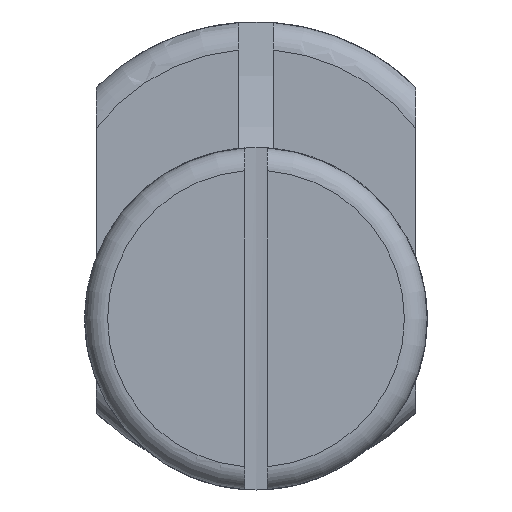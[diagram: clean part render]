
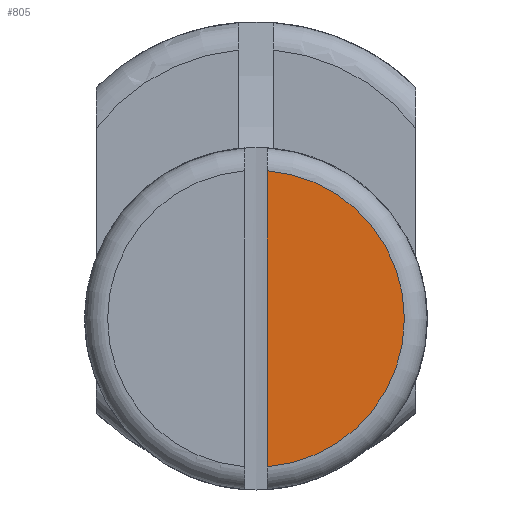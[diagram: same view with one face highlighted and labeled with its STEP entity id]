
A CAD part, front view. The second image highlights one B-rep face of the part: STEP entity #805.
In plain terms, the highlighted planar face has unit normal (0, -1, 0).
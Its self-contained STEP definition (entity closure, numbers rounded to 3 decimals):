
#134 = LINE ( 'NONE', #1239, #695 ) ;
#142 = VERTEX_POINT ( 'NONE', #1992 ) ;
#398 = DIRECTION ( 'NONE',  ( 0., -1., 0. ) ) ;
#695 = VECTOR ( 'NONE', #2273, 1000. ) ;
#805 = ADVANCED_FACE ( 'NONE', ( #2340 ), #2844, .T. ) ;
#865 = CARTESIAN_POINT ( 'NONE',  ( 0.5, 0.028, 6.481 ) ) ;
#969 = EDGE_CURVE ( 'NONE', #1827, #142, #3064, .T. ) ;
#1040 = DIRECTION ( 'NONE',  ( 0., 1., 0. ) ) ;
#1239 = CARTESIAN_POINT ( 'NONE',  ( 0.5, 0.028, 7.818 ) ) ;
#1282 = AXIS2_PLACEMENT_3D ( 'NONE', #1537, #398, #3433 ) ;
#1537 = CARTESIAN_POINT ( 'NONE',  ( -6.5, 0.028, 0. ) ) ;
#1569 = EDGE_CURVE ( 'NONE', #142, #1827, #134, .T. ) ;
#1827 = VERTEX_POINT ( 'NONE', #865 ) ;
#1829 = DIRECTION ( 'NONE',  ( 0., 0., 1. ) ) ;
#1992 = CARTESIAN_POINT ( 'NONE',  ( 0.5, 0.028, -6.481 ) ) ;
#2273 = DIRECTION ( 'NONE',  ( 0., 0., 1. ) ) ;
#2340 = FACE_OUTER_BOUND ( 'NONE', #3266, .T. ) ;
#2722 = AXIS2_PLACEMENT_3D ( 'NONE', #3469, #1040, #1829 ) ;
#2844 = PLANE ( 'NONE',  #1282 ) ;
#3007 = ORIENTED_EDGE ( 'NONE', *, *, #1569, .F. ) ;
#3064 = CIRCLE ( 'NONE', #2722, 6.5 ) ;
#3145 = ORIENTED_EDGE ( 'NONE', *, *, #969, .F. ) ;
#3266 = EDGE_LOOP ( 'NONE', ( #3007, #3145 ) ) ;
#3433 = DIRECTION ( 'NONE',  ( 0., 0., -1. ) ) ;
#3469 = CARTESIAN_POINT ( 'NONE',  ( 0., 0.028, 0. ) ) ;
